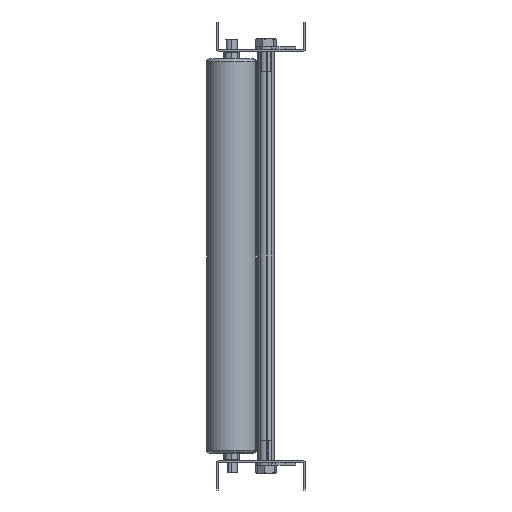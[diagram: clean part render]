
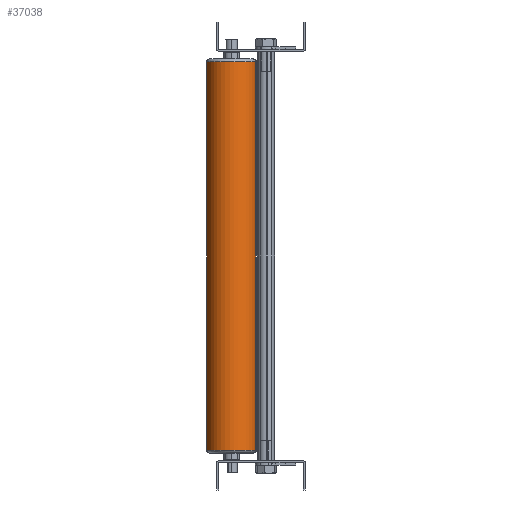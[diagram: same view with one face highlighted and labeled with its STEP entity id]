
A CAD part, left-side view. The second image highlights one B-rep face of the part: STEP entity #37038.
In plain terms, the highlighted cylindrical face has radius 25.4 mm (diameter 50.8 mm), a partial arc.
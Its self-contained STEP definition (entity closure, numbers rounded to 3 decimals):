
#550 = CARTESIAN_POINT ( 'NONE',  ( -3176.637, 631.179, 264.827 ) ) ;
#553 = DIRECTION ( 'NONE',  ( 0.25, 0.968, 0. ) ) ;
#797 = VECTOR ( 'NONE', #10817, 1000. ) ;
#2086 = CARTESIAN_POINT ( 'NONE',  ( -3189.345, 581.995, 1009.368 ) ) ;
#4161 = CARTESIAN_POINT ( 'NONE',  ( -3189.345, 581.995, 658.827 ) ) ;
#4775 = EDGE_CURVE ( 'NONE', #31079, #21585, #27490, .T. ) ;
#4924 = AXIS2_PLACEMENT_3D ( 'NONE', #6045, #14410, #26538 ) ;
#5853 = CYLINDRICAL_SURFACE ( 'NONE', #4924, 25.4 ) ;
#6045 = CARTESIAN_POINT ( 'NONE',  ( -3182.991, 606.587, 1009.368 ) ) ;
#6492 = VECTOR ( 'NONE', #22226, 1000. ) ;
#7818 = DIRECTION ( 'NONE',  ( -0.25, -0.968, 0. ) ) ;
#8228 = CARTESIAN_POINT ( 'NONE',  ( -3176.637, 631.179, 658.827 ) ) ;
#9306 = EDGE_LOOP ( 'NONE', ( #30147, #20264, #28201, #35605 ) ) ;
#10499 = CARTESIAN_POINT ( 'NONE',  ( -3189.345, 581.995, 264.827 ) ) ;
#10817 = DIRECTION ( 'NONE',  ( 0., 0., 1. ) ) ;
#11961 = CARTESIAN_POINT ( 'NONE',  ( -3182.991, 606.587, 264.827 ) ) ;
#13069 = EDGE_CURVE ( 'NONE', #30977, #27522, #21262, .T. ) ;
#14410 = DIRECTION ( 'NONE',  ( 0., 0., 1. ) ) ;
#17175 = AXIS2_PLACEMENT_3D ( 'NONE', #28516, #30616, #7818 ) ;
#20264 = ORIENTED_EDGE ( 'NONE', *, *, #29600, .T. ) ;
#21262 = CIRCLE ( 'NONE', #24890, 25.4 ) ;
#21585 = VERTEX_POINT ( 'NONE', #8228 ) ;
#22226 = DIRECTION ( 'NONE',  ( 0., 0., 1. ) ) ;
#22387 = LINE ( 'NONE', #2086, #797 ) ;
#23157 = EDGE_CURVE ( 'NONE', #30977, #21585, #31560, .T. ) ;
#23528 = DIRECTION ( 'NONE',  ( 0., 0., 1. ) ) ;
#24890 = AXIS2_PLACEMENT_3D ( 'NONE', #11961, #23528, #553 ) ;
#26538 = DIRECTION ( 'NONE',  ( 0.25, 0.968, 0. ) ) ;
#27490 = CIRCLE ( 'NONE', #17175, 25.4 ) ;
#27522 = VERTEX_POINT ( 'NONE', #10499 ) ;
#28201 = ORIENTED_EDGE ( 'NONE', *, *, #4775, .T. ) ;
#28516 = CARTESIAN_POINT ( 'NONE',  ( -3182.991, 606.587, 658.827 ) ) ;
#29198 = FACE_OUTER_BOUND ( 'NONE', #9306, .T. ) ;
#29600 = EDGE_CURVE ( 'NONE', #27522, #31079, #22387, .T. ) ;
#30147 = ORIENTED_EDGE ( 'NONE', *, *, #13069, .T. ) ;
#30616 = DIRECTION ( 'NONE',  ( 0., 0., -1. ) ) ;
#30977 = VERTEX_POINT ( 'NONE', #550 ) ;
#31079 = VERTEX_POINT ( 'NONE', #4161 ) ;
#31560 = LINE ( 'NONE', #36866, #6492 ) ;
#35605 = ORIENTED_EDGE ( 'NONE', *, *, #23157, .F. ) ;
#36866 = CARTESIAN_POINT ( 'NONE',  ( -3176.637, 631.179, 1009.368 ) ) ;
#37038 = ADVANCED_FACE ( 'NONE', ( #29198 ), #5853, .T. ) ;
